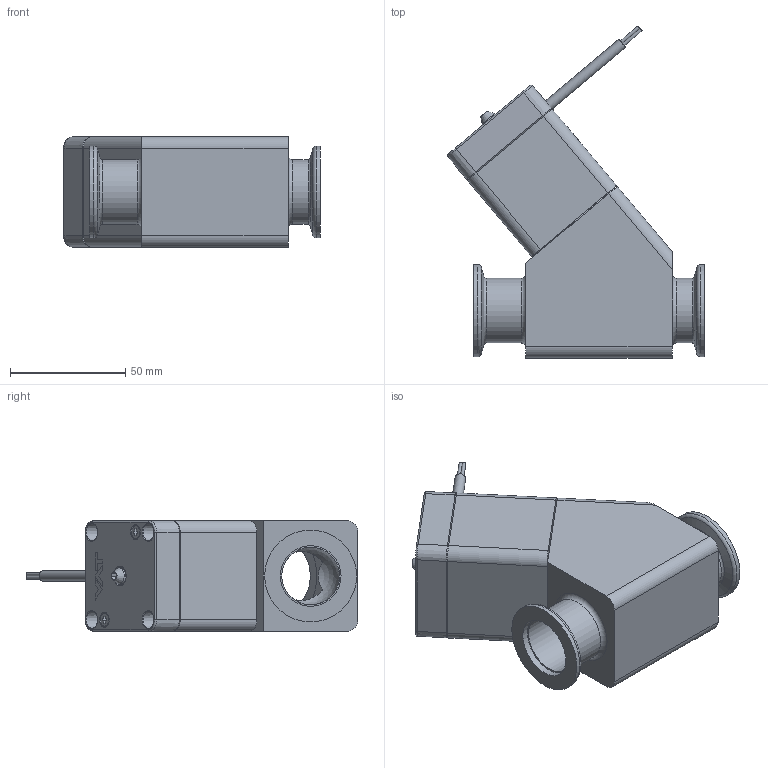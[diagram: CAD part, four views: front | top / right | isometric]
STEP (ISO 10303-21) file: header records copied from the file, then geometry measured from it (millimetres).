
FILE_DESCRIPTION(/* description */ (''),/* implementation_level */ '2;1');
FILE_NAME(/* name */ '1799668440_203.stp',/* time_stamp */ '2013-07-16T13:48:15+02:00',/* author */ (''),/* organization */ (''),/* preprocessor_version */ 'ST-DEVELOPER v11',/* originating_system */ 'SIEMENS PLM Software NX 7.5',/* authorisation */ '');
FILE_SCHEMA (('AP203_CONFIGURATION_CONTROLLED_3D_DESIGN_OF_MECHANICAL_PARTS_AND_ASSEMBLIES_MIM_LF'));
Length unit declared in the file: millimetre
Products named in the file (9): 239888_6.1; 233359; 236204_1.1; 394442; 243878.2; 239359.4; N-6005-448.1; 402922; 369141
Assembly tree (12 placements, depth 3):
  369141
    N-6005-448.1  x4
    239359.4
    243878.2
    394442
    402922
      236204_1.1  x2
      233359
      239888_6.1
Bounding box: 111.35 x 143.85 x 48 mm (x, y, z)
Volume: 192718.7 mm3; surface area: 77276.6 mm2
Topology: 19 solids, 19 shells, 527 faces, 1261 edges, 821 vertices
Faces by surface type: plane 285, cylinder 132, cone 73, bspline 19, torus 16, sphere 2
Full cylindrical faces by diameter (mm): 1.4 x8, 2.5 x3, 2.95 x1, 3 x7, 3.26 x4, 3.3 x8, 4 x8, 4.2 x1, 4.4 x1, 4.5 x4, 4.6 x1, 4.7 x3, 5 x1, 5.1 x1, 5.6 x2, 6 x3, 7 x4, 7.4 x1, 7.975 x3, 8 x5, 8.012 x2, 9.25 x1, 11.5 x1, 14 x1, 24 x1, 25 x3, 26.3 x2, 28 x2, 36.5 x1, 39.84 x2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
Entity records: 14579 total; most frequent: CARTESIAN_POINT 2965, DIRECTION 2120, ORIENTED_EDGE 1868, EDGE_CURVE 934, AXIS2_PLACEMENT_3D 797, VERTEX_POINT 691, EDGE_LOOP 666, LINE 526
